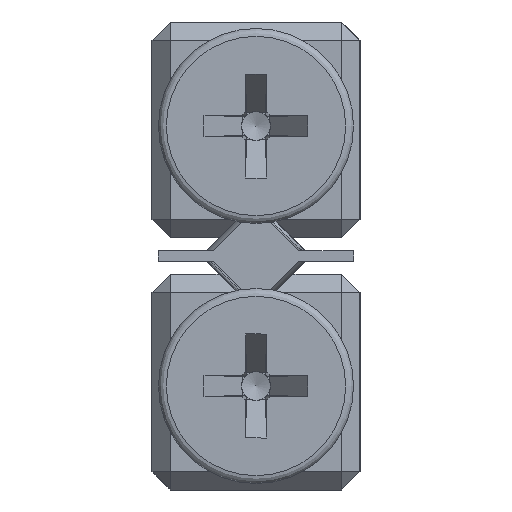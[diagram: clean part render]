
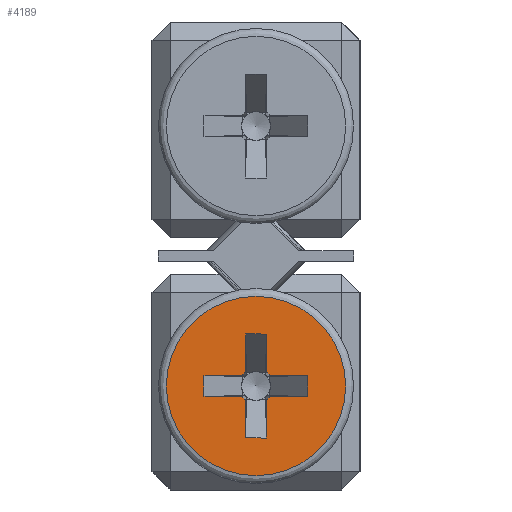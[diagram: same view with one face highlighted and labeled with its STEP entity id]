
A CAD part, left-side view. The second image highlights one B-rep face of the part: STEP entity #4189.
In plain terms, the highlighted planar face has unit normal (-1, 0, 0).
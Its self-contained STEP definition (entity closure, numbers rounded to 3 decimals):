
#32 = VERTEX_POINT ( 'NONE', #15690 ) ;
#239 = CARTESIAN_POINT ( 'NONE',  ( -89.5, -2., 3.6 ) ) ;
#1320 = VERTEX_POINT ( 'NONE', #13425 ) ;
#1352 = VERTEX_POINT ( 'NONE', #19303 ) ;
#1433 = CARTESIAN_POINT ( 'NONE',  ( -89.5, 2., 4.4 ) ) ;
#1481 = VERTEX_POINT ( 'NONE', #16779 ) ;
#1531 = CARTESIAN_POINT ( 'NONE',  ( -89.5, 0.4, 2. ) ) ;
#1575 = CARTESIAN_POINT ( 'NONE',  ( -89.5, 0.548, 4.4 ) ) ;
#1596 = CARTESIAN_POINT ( 'NONE',  ( -89.5, 0.4, 6. ) ) ;
#1655 = CARTESIAN_POINT ( 'NONE',  ( -89.5, 2., 4.4 ) ) ;
#1724 = EDGE_CURVE ( 'NONE', #16632, #9609, #12760, .T. ) ;
#1924 = VECTOR ( 'NONE', #8509, 1000. ) ;
#2089 = DIRECTION ( 'NONE',  ( 0., 1., 0. ) ) ;
#2280 = LINE ( 'NONE', #9887, #15584 ) ;
#2518 = VERTEX_POINT ( 'NONE', #23817 ) ;
#2587 = VERTEX_POINT ( 'NONE', #1575 ) ;
#2600 = DIRECTION ( 'NONE',  ( 0., 0., 1. ) ) ;
#2636 = DIRECTION ( 'NONE',  ( 0., 0., 1. ) ) ;
#2653 = EDGE_CURVE ( 'NONE', #32, #8247, #13299, .T. ) ;
#3343 = ORIENTED_EDGE ( 'NONE', *, *, #17886, .F. ) ;
#4189 = ADVANCED_FACE ( 'NONE', ( #19874, #6745 ), #6861, .F. ) ;
#4401 = CARTESIAN_POINT ( 'NONE',  ( -89.5, 0.4, 3.452 ) ) ;
#4418 = CIRCLE ( 'NONE', #20379, 0.678 ) ;
#4428 = CARTESIAN_POINT ( 'NONE',  ( -89.5, 0.4, 2. ) ) ;
#4487 = DIRECTION ( 'NONE',  ( 0., 0., 1. ) ) ;
#4787 = DIRECTION ( 'NONE',  ( -1., 0., 0. ) ) ;
#4930 = DIRECTION ( 'NONE',  ( 0., 1., 0. ) ) ;
#5090 = EDGE_CURVE ( 'NONE', #13809, #1481, #24293, .T. ) ;
#5145 = ORIENTED_EDGE ( 'NONE', *, *, #17945, .F. ) ;
#5610 = EDGE_CURVE ( 'NONE', #2518, #22373, #11708, .T. ) ;
#5753 = CARTESIAN_POINT ( 'NONE',  ( -89.5, 0., 4. ) ) ;
#5913 = LINE ( 'NONE', #1655, #23304 ) ;
#6009 = DIRECTION ( 'NONE',  ( -1., 0., 0. ) ) ;
#6205 = ORIENTED_EDGE ( 'NONE', *, *, #15913, .F. ) ;
#6381 = VERTEX_POINT ( 'NONE', #10861 ) ;
#6612 = VECTOR ( 'NONE', #16765, 1000. ) ;
#6745 = FACE_BOUND ( 'NONE', #13044, .T. ) ;
#6861 = PLANE ( 'NONE',  #18200 ) ;
#6965 = ORIENTED_EDGE ( 'NONE', *, *, #12024, .T. ) ;
#7100 = EDGE_LOOP ( 'NONE', ( #11962 ) ) ;
#7377 = ORIENTED_EDGE ( 'NONE', *, *, #1724, .T. ) ;
#7515 = VECTOR ( 'NONE', #2089, 1000. ) ;
#7978 = EDGE_CURVE ( 'NONE', #11949, #22359, #9139, .T. ) ;
#7996 = DIRECTION ( 'NONE',  ( 0., 0., 1. ) ) ;
#8247 = VERTEX_POINT ( 'NONE', #14479 ) ;
#8342 = ORIENTED_EDGE ( 'NONE', *, *, #14986, .T. ) ;
#8382 = EDGE_CURVE ( 'NONE', #13370, #22373, #9721, .T. ) ;
#8509 = DIRECTION ( 'NONE',  ( 0., 0., -1. ) ) ;
#8532 = CARTESIAN_POINT ( 'NONE',  ( -89.5, 0., 4. ) ) ;
#8555 = CARTESIAN_POINT ( 'NONE',  ( -89.5, -2., 3.6 ) ) ;
#9064 = DIRECTION ( 'NONE',  ( 0., 0., -1. ) ) ;
#9139 = LINE ( 'NONE', #1531, #6612 ) ;
#9233 = AXIS2_PLACEMENT_3D ( 'NONE', #5753, #6009, #7996 ) ;
#9371 = VECTOR ( 'NONE', #9970, 1000. ) ;
#9384 = DIRECTION ( 'NONE',  ( 0., -1., 0. ) ) ;
#9609 = VERTEX_POINT ( 'NONE', #11560 ) ;
#9713 = AXIS2_PLACEMENT_3D ( 'NONE', #8532, #14651, #10637 ) ;
#9721 = LINE ( 'NONE', #239, #24169 ) ;
#9824 = LINE ( 'NONE', #24700, #7515 ) ;
#9844 = CARTESIAN_POINT ( 'NONE',  ( -89.5, 2., 4.4 ) ) ;
#9887 = CARTESIAN_POINT ( 'NONE',  ( -89.5, 0.4, 2. ) ) ;
#9970 = DIRECTION ( 'NONE',  ( 0., 1., 0. ) ) ;
#10320 = EDGE_CURVE ( 'NONE', #16632, #6381, #19312, .T. ) ;
#10399 = DIRECTION ( 'NONE',  ( 0., 0., 1. ) ) ;
#10530 = LINE ( 'NONE', #8555, #12280 ) ;
#10592 = DIRECTION ( 'NONE',  ( 1., 0., 0. ) ) ;
#10637 = DIRECTION ( 'NONE',  ( 0., 0., -1. ) ) ;
#10718 = CARTESIAN_POINT ( 'NONE',  ( -89.5, 3.75, 4. ) ) ;
#10861 = CARTESIAN_POINT ( 'NONE',  ( -89.5, -0.548, 3.6 ) ) ;
#11560 = CARTESIAN_POINT ( 'NONE',  ( -89.5, -0.4, 2. ) ) ;
#11708 = LINE ( 'NONE', #9844, #23450 ) ;
#11949 = VERTEX_POINT ( 'NONE', #4428 ) ;
#11962 = ORIENTED_EDGE ( 'NONE', *, *, #22036, .T. ) ;
#12024 = EDGE_CURVE ( 'NONE', #1352, #21307, #16150, .T. ) ;
#12098 = CARTESIAN_POINT ( 'NONE',  ( -89.5, 0., 4. ) ) ;
#12280 = VECTOR ( 'NONE', #4930, 1000. ) ;
#12285 = CARTESIAN_POINT ( 'NONE',  ( -89.5, 0., 4. ) ) ;
#12334 = ORIENTED_EDGE ( 'NONE', *, *, #5090, .F. ) ;
#12364 = CARTESIAN_POINT ( 'NONE',  ( -89.5, 0., 0.55 ) ) ;
#12760 = LINE ( 'NONE', #22013, #1924 ) ;
#12820 = CARTESIAN_POINT ( 'NONE',  ( -89.5, -0.4, 6. ) ) ;
#13044 = EDGE_LOOP ( 'NONE', ( #17800, #7377, #3343, #19491, #5145, #21589, #12334, #21312, #21186, #6965, #6205, #13274, #19629, #22716, #20238, #8342 ) ) ;
#13274 = ORIENTED_EDGE ( 'NONE', *, *, #2653, .T. ) ;
#13299 = LINE ( 'NONE', #12820, #14224 ) ;
#13370 = VERTEX_POINT ( 'NONE', #16077 ) ;
#13425 = CARTESIAN_POINT ( 'NONE',  ( -89.5, 0.548, 3.6 ) ) ;
#13809 = VERTEX_POINT ( 'NONE', #1433 ) ;
#13867 = VECTOR ( 'NONE', #22305, 1000. ) ;
#14224 = VECTOR ( 'NONE', #9064, 1000. ) ;
#14479 = CARTESIAN_POINT ( 'NONE',  ( -89.5, -0.4, 4.548 ) ) ;
#14651 = DIRECTION ( 'NONE',  ( -1., 0., 0. ) ) ;
#14986 = EDGE_CURVE ( 'NONE', #13370, #6381, #10530, .T. ) ;
#15009 = CARTESIAN_POINT ( 'NONE',  ( -89.5, -0.4, 3.452 ) ) ;
#15584 = VECTOR ( 'NONE', #17519, 1000. ) ;
#15690 = CARTESIAN_POINT ( 'NONE',  ( -89.5, -0.4, 6. ) ) ;
#15707 = CARTESIAN_POINT ( 'NONE',  ( -89.5, -2., 3.6 ) ) ;
#15913 = EDGE_CURVE ( 'NONE', #32, #21307, #9824, .T. ) ;
#16077 = CARTESIAN_POINT ( 'NONE',  ( -89.5, -2., 3.6 ) ) ;
#16150 = LINE ( 'NONE', #21674, #22554 ) ;
#16250 = DIRECTION ( 'NONE',  ( -1., 0., 0. ) ) ;
#16371 = CARTESIAN_POINT ( 'NONE',  ( -89.5, -2., 4.4 ) ) ;
#16468 = EDGE_CURVE ( 'NONE', #2518, #8247, #19094, .T. ) ;
#16632 = VERTEX_POINT ( 'NONE', #15009 ) ;
#16765 = DIRECTION ( 'NONE',  ( 0., 0., 1. ) ) ;
#16779 = CARTESIAN_POINT ( 'NONE',  ( -89.5, 2., 3.6 ) ) ;
#17519 = DIRECTION ( 'NONE',  ( 0., -1., 0. ) ) ;
#17695 = CIRCLE ( 'NONE', #9713, 3.45 ) ;
#17800 = ORIENTED_EDGE ( 'NONE', *, *, #10320, .F. ) ;
#17886 = EDGE_CURVE ( 'NONE', #11949, #9609, #2280, .T. ) ;
#17898 = AXIS2_PLACEMENT_3D ( 'NONE', #12285, #4787, #23656 ) ;
#17945 = EDGE_CURVE ( 'NONE', #1320, #22359, #4418, .T. ) ;
#18200 = AXIS2_PLACEMENT_3D ( 'NONE', #10718, #10592, #20241 ) ;
#19094 = CIRCLE ( 'NONE', #17898, 0.678 ) ;
#19276 = EDGE_CURVE ( 'NONE', #1352, #2587, #22419, .T. ) ;
#19303 = CARTESIAN_POINT ( 'NONE',  ( -89.5, 0.4, 4.548 ) ) ;
#19312 = CIRCLE ( 'NONE', #21722, 0.678 ) ;
#19491 = ORIENTED_EDGE ( 'NONE', *, *, #7978, .T. ) ;
#19629 = ORIENTED_EDGE ( 'NONE', *, *, #16468, .F. ) ;
#19730 = DIRECTION ( 'NONE',  ( -1., 0., 0. ) ) ;
#19768 = CARTESIAN_POINT ( 'NONE',  ( -89.5, 0., 4. ) ) ;
#19874 = FACE_OUTER_BOUND ( 'NONE', #7100, .T. ) ;
#20238 = ORIENTED_EDGE ( 'NONE', *, *, #8382, .F. ) ;
#20241 = DIRECTION ( 'NONE',  ( 0., 0., -1. ) ) ;
#20379 = AXIS2_PLACEMENT_3D ( 'NONE', #19768, #16250, #2636 ) ;
#21186 = ORIENTED_EDGE ( 'NONE', *, *, #19276, .F. ) ;
#21307 = VERTEX_POINT ( 'NONE', #1596 ) ;
#21312 = ORIENTED_EDGE ( 'NONE', *, *, #22149, .T. ) ;
#21589 = ORIENTED_EDGE ( 'NONE', *, *, #24173, .T. ) ;
#21603 = DIRECTION ( 'NONE',  ( 0., -1., 0. ) ) ;
#21674 = CARTESIAN_POINT ( 'NONE',  ( -89.5, 0.4, 2. ) ) ;
#21717 = LINE ( 'NONE', #15707, #9371 ) ;
#21722 = AXIS2_PLACEMENT_3D ( 'NONE', #12098, #19730, #2600 ) ;
#21995 = VERTEX_POINT ( 'NONE', #12364 ) ;
#22013 = CARTESIAN_POINT ( 'NONE',  ( -89.5, -0.4, 6. ) ) ;
#22036 = EDGE_CURVE ( 'NONE', #21995, #21995, #17695, .T. ) ;
#22149 = EDGE_CURVE ( 'NONE', #13809, #2587, #5913, .T. ) ;
#22305 = DIRECTION ( 'NONE',  ( 0., 0., -1. ) ) ;
#22359 = VERTEX_POINT ( 'NONE', #4401 ) ;
#22373 = VERTEX_POINT ( 'NONE', #16371 ) ;
#22419 = CIRCLE ( 'NONE', #9233, 0.678 ) ;
#22423 = CARTESIAN_POINT ( 'NONE',  ( -89.5, 2., 4.4 ) ) ;
#22554 = VECTOR ( 'NONE', #10399, 1000. ) ;
#22716 = ORIENTED_EDGE ( 'NONE', *, *, #5610, .T. ) ;
#23304 = VECTOR ( 'NONE', #9384, 1000. ) ;
#23450 = VECTOR ( 'NONE', #21603, 1000. ) ;
#23656 = DIRECTION ( 'NONE',  ( 0., 0., 1. ) ) ;
#23817 = CARTESIAN_POINT ( 'NONE',  ( -89.5, -0.548, 4.4 ) ) ;
#24169 = VECTOR ( 'NONE', #4487, 1000. ) ;
#24173 = EDGE_CURVE ( 'NONE', #1320, #1481, #21717, .T. ) ;
#24293 = LINE ( 'NONE', #22423, #13867 ) ;
#24700 = CARTESIAN_POINT ( 'NONE',  ( -89.5, -0.4, 6. ) ) ;
